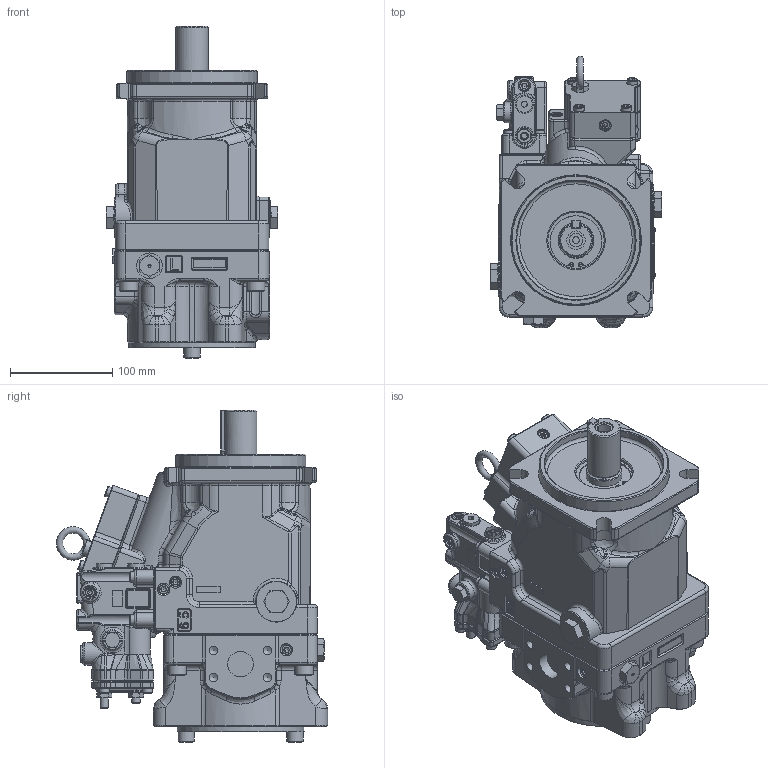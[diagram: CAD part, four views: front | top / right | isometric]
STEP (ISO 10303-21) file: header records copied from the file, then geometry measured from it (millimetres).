
FILE_DESCRIPTION(/* description */ (''),/* implementation_level */ '2;1');
FILE_NAME(/* name */ 'K3VLS65-1NRK3H-L1A00.stp',/* time_stamp */ '2025-09-29T09:51:59+01:00',/* author */ ('jhatcher'),/* organization */ (''),/* preprocessor_version */ 'ST-DEVELOPER v20',/* originating_system */ 'Autodesk Inventor 2024',/* authorisation */ '');
FILE_SCHEMA (('AUTOMOTIVE_DESIGN { 1 0 10303 214 3 1 1 }'));
Products named in the file (1): K3VLS65-1NRK3H-L1A00
Bounding box: 167.84 x 264.76 x 324 mm (x, y, z)
Volume: 5662447.2 mm3; surface area: 296503.1 mm2
Topology: 1 solids, 1 shells, 3107 faces, 7767 edges, 4744 vertices
Faces by surface type: plane 1294, cylinder 801, bspline 495, cone 327, torus 170, sphere 20
Full cylindrical faces by diameter (mm): 2.5 x2, 4 x2, 6.647 x1, 8 x2, 8.376 x8, 9.4 x11, 10 x12, 10.106 x4, 11 x12, 12 x11, 16 x5, 18 x9, 20 x5, 22 x1, 25 x2, 31.75 x1, 35 x1, 35.09 x1, 45 x1, 50 x1, 55 x1, 58 x1, 116 x1, 124 x1, 127 x1
Entity records: 109161 total; most frequent: CARTESIAN_POINT 37943, ORIENTED_EDGE 15328, DIRECTION 13962, EDGE_CURVE 7664, AXIS2_PLACEMENT_3D 5055, VERTEX_POINT 4744, LINE 3852, VECTOR 3852
